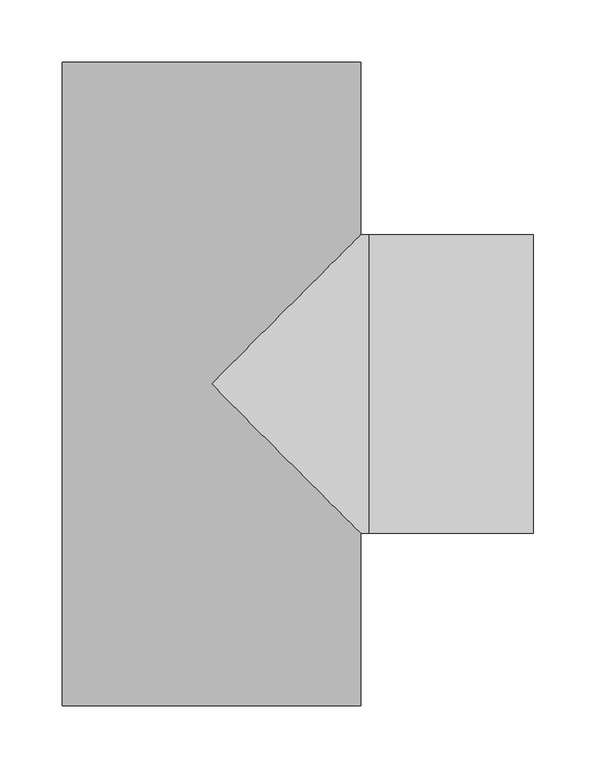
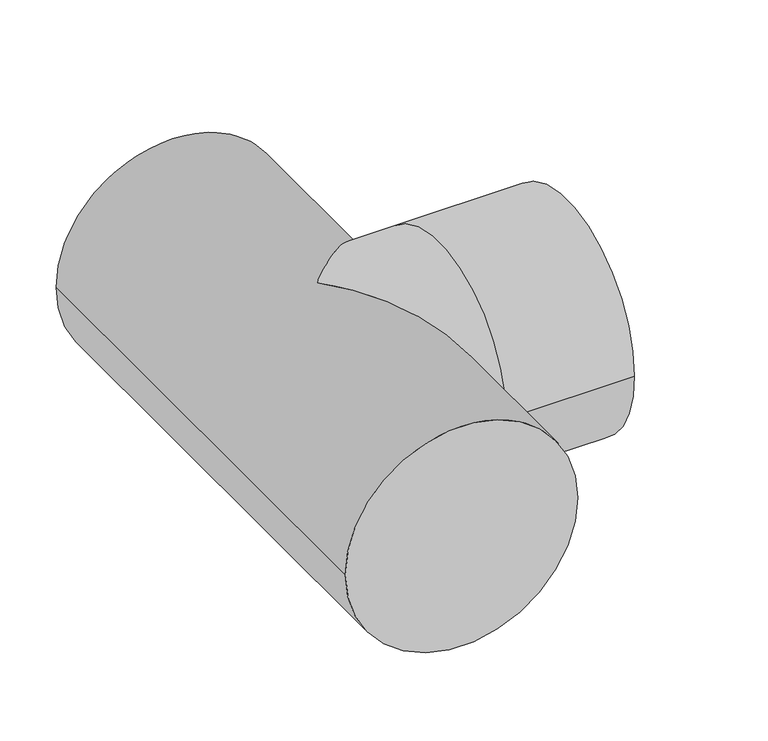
"""IFC4 building model written with IfcOpenShell, lengths in millimetres: pipe fitting geometry, 01051003 : Tê a 90º."""

import ifcopenshell
import ifcopenshell.guid

model = None  # the IFC model being written
_history = None  # IfcOwnerHistory: only IFC2X3 demands one
_inside = {}  # id of a spatial element -> (the spatial element, [elements in it])
_under = {}  # id of a project, library or spatial element -> (it, [spatial elements below it])
_declared = {}  # id of a project -> (the project, [libraries it declares])
_typed = {}  # id of a type object -> (the type object, [elements of that type])
_made_of = {}  # id of a material, layer set ... -> (it, [elements and type objects made of it])


def new_model(schema):
    """Start an empty IFC model of exactly this schema.

    Asked for "IFC4X3", IfcOpenShell would pick the latest addendum, in which some entities
    have other attributes; the version numbers below select the first issue.
    IFC2X3 requires an IfcOwnerHistory on every rooted entity: one is made here for all.
    """
    global model, _history
    if schema == "IFC4X3":
        model = ifcopenshell.file(schema_version=(4, 3, 0, 0))
    else:
        model = ifcopenshell.file(schema=schema)
    _inside.clear()
    _under.clear()
    _declared.clear()
    _typed.clear()
    _made_of.clear()
    _history = None
    if model.schema == "IFC2X3":
        org = make("IfcOrganization", Name="unknown")
        user = make(
            "IfcPersonAndOrganization",
            ThePerson=make("IfcPerson", FamilyName="unknown"),
            TheOrganization=org,
        )
        app = make(
            "IfcApplication",
            ApplicationDeveloper=org,
            Version="unknown",
            ApplicationFullName="unknown",
            ApplicationIdentifier="unknown",
        )
        _history = make(
            "IfcOwnerHistory",
            OwningUser=user,
            OwningApplication=app,
            ChangeAction="ADDED",
            CreationDate=0,
        )
    return model


def make(cls, **values):
    """One entity of the class cls with the attributes given. An attribute that is None is left unset."""
    return model.create_entity(
        cls, **{name: value for name, value in values.items() if value is not None}
    )


def rooted(cls, **values):
    """An entity with a GlobalId (a new one), such as an element, a storey or a relation."""
    return make(cls, GlobalId=ifcopenshell.guid.new(), OwnerHistory=_history, **values)


def si_unit(unit_type, name, prefix=None):
    """IfcSIUnit, for example si_unit("LENGTHUNIT", "METRE", prefix="MILLI")."""
    return make("IfcSIUnit", UnitType=unit_type, Prefix=prefix, Name=name)


def assignment(units):
    """IfcUnitAssignment: the units of a project."""
    return None if units is None else make("IfcUnitAssignment", Units=units)


def point(xyz):
    """IfcCartesianPoint."""
    return None if xyz is None else make("IfcCartesianPoint", Coordinates=xyz)


def direction(xyz):
    """IfcDirection."""
    return None if xyz is None else make("IfcDirection", DirectionRatios=xyz)


def frame(location, z_axis=None, x_axis=None):
    """IfcAxis2Placement3D, a coordinate frame: its origin and axes. An axis left out is left unset."""
    return make(
        "IfcAxis2Placement3D",
        Location=point(location),
        Axis=direction(z_axis),
        RefDirection=direction(x_axis),
    )


def origin():
    """The frame at (0, 0, 0) with its axes left unset."""
    return frame((0.0, 0.0, 0.0))


def place(relative_to, where):
    """IfcLocalPlacement: puts the frame where relative to a parent placement (None: the world)."""
    return make(
        "IfcLocalPlacement", PlacementRelTo=relative_to, RelativePlacement=where
    )


def context(
    kind, dimensions, precision=None, world=None, true_north=None, identifier=None
):
    """IfcGeometricRepresentationContext, for example the 3D "Model" context."""
    return make(
        "IfcGeometricRepresentationContext",
        ContextIdentifier=identifier,
        ContextType=kind,
        CoordinateSpaceDimension=dimensions,
        Precision=precision,
        WorldCoordinateSystem=world,
        TrueNorth=true_north,
    )


def project(units=None, contexts=None):
    """IfcProject with its units and contexts."""
    return rooted(
        "IfcProject",
        Name="project",
        RepresentationContexts=contexts,
        UnitsInContext=assignment(units),
    )


def spatial(cls, under=None, at=None, **own):
    """A site, building, storey or space (cls), placed at a placement, below another one or the project."""
    s = rooted(cls, ObjectPlacement=at, **own)
    if under is not None:
        _under.setdefault(under.id(), (under, []))[1].append(s)
    return s


def circle_curve(where, radius):
    """IfcCircle in the frame where."""
    return make("IfcCircle", Position=where, Radius=radius)


def ellipse_curve(where, semi_axis1, semi_axis2):
    """IfcEllipse in the frame where."""
    return make(
        "IfcEllipse", Position=where, SemiAxis1=semi_axis1, SemiAxis2=semi_axis2
    )


def shape(context_of_items, identifier, shape_type, items):
    """IfcShapeRepresentation: the items that make up one representation, for example the "Body"."""
    return make(
        "IfcShapeRepresentation",
        ContextOfItems=context_of_items,
        RepresentationIdentifier=identifier,
        RepresentationType=shape_type,
        Items=items,
    )


def source(mapping_origin, context_of_items, identifier, shape_type, items):
    """IfcRepresentationMap: a shape defined once, which mapped items show again and again."""
    return make(
        "IfcRepresentationMap",
        MappingOrigin=mapping_origin,
        MappedRepresentation=shape(context_of_items, identifier, shape_type, items),
    )


def transform(
    local_origin,
    x_axis=None,
    y_axis=None,
    z_axis=None,
    scale=None,
    scale2=None,
    scale3=None,
    uniform=True,
):
    """IfcCartesianTransformationOperator3D, or its non-uniform kind. x_axis, y_axis, z_axis: its Axis1, 2, 3."""
    if uniform:
        return make(
            "IfcCartesianTransformationOperator3D",
            Axis1=direction(x_axis),
            Axis2=direction(y_axis),
            LocalOrigin=point(local_origin),
            Scale=scale,
            Axis3=direction(z_axis),
        )
    return make(
        "IfcCartesianTransformationOperator3DnonUniform",
        Axis1=direction(x_axis),
        Axis2=direction(y_axis),
        LocalOrigin=point(local_origin),
        Scale=scale,
        Axis3=direction(z_axis),
        Scale2=scale2,
        Scale3=scale3,
    )


def mapped(mapping_source, mapping_target):
    """IfcMappedItem: shows the shape of a source again, moved by a transform."""
    return make(
        "IfcMappedItem", MappingSource=mapping_source, MappingTarget=mapping_target
    )


def made_of(thing, what):
    """Note that an element or type object is made of a material, layer set ...; save() writes the relation."""
    if what is not None:
        _made_of.setdefault(what.id(), (what, []))[1].append(thing)
    return thing


def element(
    cls,
    number,
    at=None,
    inside=None,
    cuts=None,
    type_object=None,
    material=None,
    context=None,
    identifier="Body",
    shape_type=None,
    held_by="IfcProductDefinitionShape",
    body=None,
    shapes=None,
    **own,
):
    """One element of the class cls, such as IfcWall. Its Tag is "e" and its number.

    at: its placement. inside: the storey or other place that contains it. cuts: it is an
    opening in that element (IfcRelVoidsElement). A single representation is given by context,
    identifier, shape_type and body (its items); several are given by shapes. held_by: the class
    of the entity that holds the representations. save() writes the other relations.
    """
    e = rooted(cls, Tag="e%d" % number, ObjectPlacement=at, **own)
    if body is not None:
        shapes = [shape(context, identifier, shape_type, body)]
    if shapes is not None:
        e.Representation = make(held_by, Representations=shapes)
    if inside is not None:
        _inside.setdefault(inside.id(), (inside, []))[1].append(e)
    if cuts is not None:
        rooted(
            "IfcRelVoidsElement", RelatingBuildingElement=cuts, RelatedOpeningElement=e
        )
    if type_object is not None:
        _typed.setdefault(type_object.id(), (type_object, []))[1].append(e)
    return made_of(e, material)


def aggregate(whole, parts):
    """IfcRelAggregates: a whole, such as a stair, and the parts it consists of."""
    return rooted("IfcRelAggregates", RelatingObject=whole, RelatedObjects=parts)


def save(model, path):
    """Write the relations noted so far, then the file.

    IfcRelAggregates (storeys below a building ...), IfcRelContainedInSpatialStructure (elements
    in a storey), IfcRelDefinesByType, IfcRelAssociatesMaterial and IfcRelDeclares: one each for
    every whole, place, type object, material and project.
    """
    for whole, parts in _under.values():
        aggregate(whole, parts)
    for where, things in _inside.values():
        rooted(
            "IfcRelContainedInSpatialStructure",
            RelatedElements=things,
            RelatingStructure=where,
        )
    for kind, things in _typed.values():
        rooted("IfcRelDefinesByType", RelatedObjects=things, RelatingType=kind)
    for what, things in _made_of.values():
        rooted("IfcRelAssociatesMaterial", RelatedObjects=things, RelatingMaterial=what)
    for by, libraries in _declared.values():
        rooted("IfcRelDeclares", RelatingContext=by, RelatedDefinitions=libraries)
    model.write(path)


def plane_surface(at):
    """IfcPlane: the flat surface through the origin of the frame at, square to its z axis."""
    return make("IfcPlane", Position=at)


def cylinder_surface(at, radius):
    """IfcCylindricalSurface: all points at the distance radius from the z axis of the frame at."""
    return make("IfcCylindricalSurface", Position=at, Radius=radius)


def advanced_brep(points, edges, surfaces, faces):
    """IfcAdvancedBrep: a solid bounded by faces that lie on surfaces and meet in shared edges.

    An edge is (start, end): straight between two places in points (the first is 0);
    or (start, end, curve); or (start, end, curve, False) where it runs against its curve.
    A face is (place in surfaces, loops), or (place, loops, False) where it looks against
    its surface's normal. A loop lists edges by number (the first is 1), with a minus sign
    where the edge is run from its end to its start. The first loop is the outer one.
    """
    corners = [point(p) for p in points]
    vertices = [make("IfcVertexPoint", VertexGeometry=c) for c in corners]
    made = []
    for start, end, *more in edges:
        made.append(
            make(
                "IfcEdgeCurve",
                EdgeStart=vertices[start],
                EdgeEnd=vertices[end],
                EdgeGeometry=more[0] if more else make("IfcPolyline", Points=[corners[start], corners[end]]),
                SameSense=more[1] if len(more) > 1 else True,
            )
        )
    hull = []
    for where, loops, *sense in faces:
        bounds = []
        for j, loop in enumerate(loops):
            ring = [make("IfcOrientedEdge", EdgeElement=made[abs(k) - 1], Orientation=k > 0) for k in loop]
            bounds.append(
                make(
                    "IfcFaceOuterBound" if j == 0 else "IfcFaceBound",
                    Bound=make("IfcEdgeLoop", EdgeList=ring),
                    Orientation=True,
                )
            )
        hull.append(make("IfcAdvancedFace", Bounds=bounds, FaceSurface=surfaces[where], SameSense=sense[0] if sense else True))
    return make("IfcAdvancedBrep", Outer=make("IfcClosedShell", CfsFaces=hull))


def pipe_fitting_bdc79c4f(model_context):
    return source(origin(), model_context, "Body", "AdvancedBrep", [
        advanced_brep(
        [(-119.7, 258.0, 0.0), (119.7, 258.0, 0.0), (-119.7, -258.0, 0.0), (119.7, -258.0, 0.0), (119.7, -119.7, 0.0), (0.0, 0.0, 119.7), (119.7, 119.7, 0.0), (0.0, 0.0, -119.7), (258.0, 119.7, 0.0), (258.0, -119.7, 0.0), (126.0, -119.7, 0.0), (126.0, 119.7, 0.0)],
        [
            (0, 1, circle_curve(frame((0.0, 258.0, 0.0), z_axis=(0.0, 1.0, 0.0), x_axis=(1.0, 0.0, 0.0)), 119.7)),
            (1, 0, circle_curve(frame((0.0, 258.0, 0.0), z_axis=(0.0, 1.0, 0.0), x_axis=(1.0, 0.0, 0.0)), 119.7)),
            (2, 3, circle_curve(frame((0.0, -258.0, 0.0), z_axis=(0.0, -1.0, 0.0), x_axis=(1.0, 0.0, 0.0)), 119.7)),
            (3, 2, circle_curve(frame((0.0, -258.0, 0.0), z_axis=(0.0, -1.0, 0.0), x_axis=(1.0, 0.0, 0.0)), 119.7)),
            (0, 2),
            (3, 4),
            (4, 5, ellipse_curve(frame((0.0, 0.0, 0.0), z_axis=(-0.7071067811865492, -0.7071067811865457, 0.0), x_axis=(-0.7071067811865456, 0.7071067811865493, 0.0)), 169.2813634, 119.7)),
            (5, 6, ellipse_curve(frame((0.0, 0.0, 0.0), z_axis=(-0.7071067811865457, 0.7071067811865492, 0.0), x_axis=(0.7071067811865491, 0.7071067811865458, 0.0)), 169.2813634, 119.7)),
            (6, 1),
            (6, 7, ellipse_curve(frame((0.0, 0.0, 0.0), z_axis=(-0.7071067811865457, 0.7071067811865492, 0.0), x_axis=(0.7071067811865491, 0.7071067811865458, 0.0)), 169.2813634, 119.7)),
            (7, 4, ellipse_curve(frame((0.0, 0.0, 0.0), z_axis=(-0.7071067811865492, -0.7071067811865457, 0.0), x_axis=(-0.7071067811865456, 0.7071067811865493, 0.0)), 169.2813634, 119.7)),
            (8, 9, circle_curve(frame((258.0, 0.0, 0.0), z_axis=(1.0, 0.0, 0.0), x_axis=(0.0, -1.0, 0.0)), 119.7)),
            (9, 8, circle_curve(frame((258.0, 0.0, 0.0), z_axis=(1.0, 0.0, 0.0), x_axis=(0.0, -1.0, 0.0)), 119.7)),
            (10, 11, circle_curve(frame((126.0, 0.0, 0.0), z_axis=(-1.0, 0.0, 0.0), x_axis=(0.0, -1.0, 0.0)), 119.7)),
            (11, 6),
            (4, 10),
            (11, 10, circle_curve(frame((126.0, 0.0, 0.0), z_axis=(-1.0, 0.0, 0.0), x_axis=(0.0, -1.0, 0.0)), 119.7)),
            (8, 11),
            (10, 9),
        ],
        [
            plane_surface(frame((0.0, 258.0, 0.0), z_axis=(0.0, 1.0, 0.0), x_axis=(0.0, 0.0, 1.0))),
            plane_surface(frame((0.0, -258.0, 0.0), z_axis=(0.0, -1.0, 0.0), x_axis=(0.0, 0.0, 1.0))),
            cylinder_surface(frame((0.0, 258.0, 0.0), z_axis=(0.0, 1.0, 0.0), x_axis=(1.0, 0.0, 0.0)), 119.7),
            plane_surface(frame((258.0, 0.0, 0.0), z_axis=(1.0, 0.0, 0.0), x_axis=(0.0, 0.0, 1.0))),
            cylinder_surface(frame((126.0, 0.0, 0.0), z_axis=(1.0, 0.0, 0.0), x_axis=(0.0, -1.0, 0.0)), 119.7),
            cylinder_surface(frame((258.0, 0.0, 0.0), z_axis=(1.0, 0.0, 0.0), x_axis=(0.0, -1.0, 0.0)), 119.7),
        ],
        [
            (0, [[1, 2]]),
            (1, [[3, 4]]),
            (2, [[-1, 5, -4, 6, 7, 8, 9]]),
            (2, [[-2, -9, 10, 11, -6, -3, -5]]),
            (3, [[12, 13]]),
            (4, [[14, 15, -8, -7, 16]]),
            (4, [[17, -16, -11, -10, -15]]),
            (5, [[-12, 18, -14, 19]]),
            (5, [[-13, -19, -17, -18]]),
        ],
    ),
    ])


if __name__ == "__main__":
    model = new_model("IFC4")
    model_context = context("Model", 3, world=origin())
    ifc_project = project(units=[si_unit("LENGTHUNIT", "METRE", prefix="MILLI")], contexts=[model_context])
    site = spatial("IfcSite", under=ifc_project)
    building = spatial("IfcBuilding", under=site)
    placement = place(None, origin())
    pipe_fitting_shape = pipe_fitting_bdc79c4f(model_context)
    element("IfcPipeFitting", 1, ObjectType="01051003 : Tê a 90º", at=placement, inside=building, context=model_context, shape_type="MappedRepresentation", body=[
        mapped(pipe_fitting_shape, transform((0.0, 0.0, 0.0), x_axis=(1.0, 0.0, 0.0), y_axis=(0.0, 1.0, 0.0), z_axis=(0.0, 0.0, 1.0))),
    ])
    save(model, "model.ifc")
